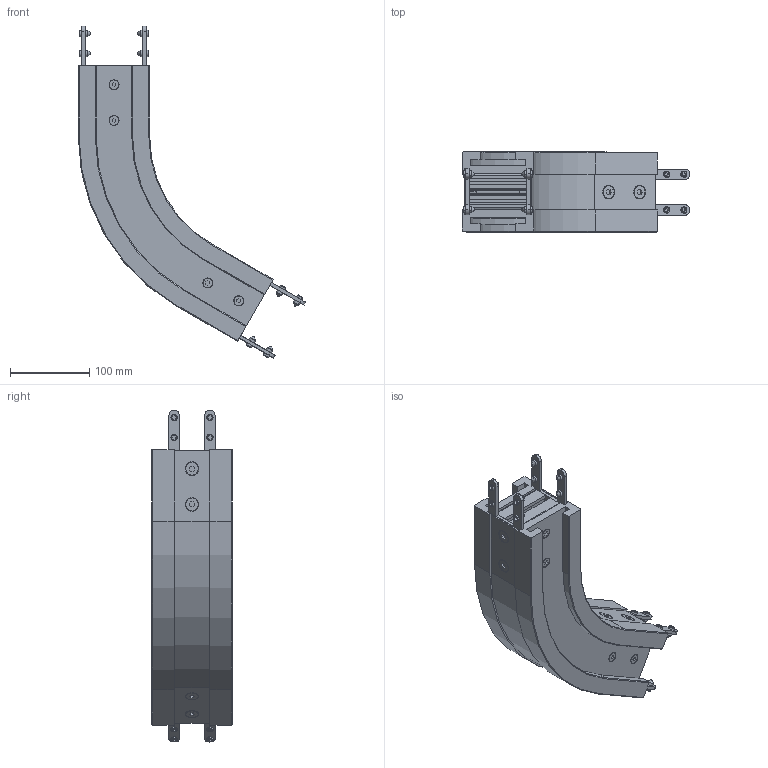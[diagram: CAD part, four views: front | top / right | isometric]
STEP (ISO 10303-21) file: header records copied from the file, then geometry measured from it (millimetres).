
FILE_DESCRIPTION (( 'STEP AP214' ), '1' );
FILE_NAME ('2000.325.460.STEP', '2021-02-11T09:46:16', ( '' ), ( '' ), 'SwSTEP 2.0', 'SolidWorks 2018', '' );
FILE_SCHEMA (( 'AUTOMOTIVE_DESIGN' ));
Length unit declared in the file: millimetre
Products named in the file (10): 2000.325.429_Default<A macchina>; 2000.325.460; 2000.325.438; VITI TSEI UNI 5933 INOX_0616UNI5933A2; VITI TSEI UNI 5933 INOX_0816UNI5933A2; 084.302.000 DADI ALUSIC 13x13-1_084.302.008; GRANI A PUNTA CONICA UNI 5927 INOX_M8x14 UNI 5927 INOX; 2000.325.437; 2000.325.436_2000.1200.490; 2000.001.402
Assembly tree (50 placements, depth 2):
  2000.325.460
    2000.325.436_2000.1200.490  x2
    2000.325.429_Default<A macchina>  x2
    2000.001.402  x4
    2000.325.438
    2000.325.437
    VITI TSEI UNI 5933 INOX_0816UNI5933A2  x8
    VITI TSEI UNI 5933 INOX_0616UNI5933A2  x8
    084.302.000 DADI ALUSIC 13x13-1_084.302.008  x8
    GRANI A PUNTA CONICA UNI 5927 INOX_M8x14 UNI 5927 INOX  x16
Bounding box: 286.49 x 101 x 418.28 mm (x, y, z)
Volume: 1516384.7 mm3; surface area: 588037 mm2
Topology: 58 solids, 58 shells, 1438 faces, 3582 edges, 2292 vertices
Faces by surface type: plane 776, cylinder 430, cone 200, torus 32
Entity records: 14214 total; most frequent: CARTESIAN_POINT 2456, DIRECTION 2423, ORIENTED_EDGE 2262, EDGE_CURVE 1131, AXIS2_PLACEMENT_3D 833, VECTOR 757, LINE 757, VERTEX_POINT 734
